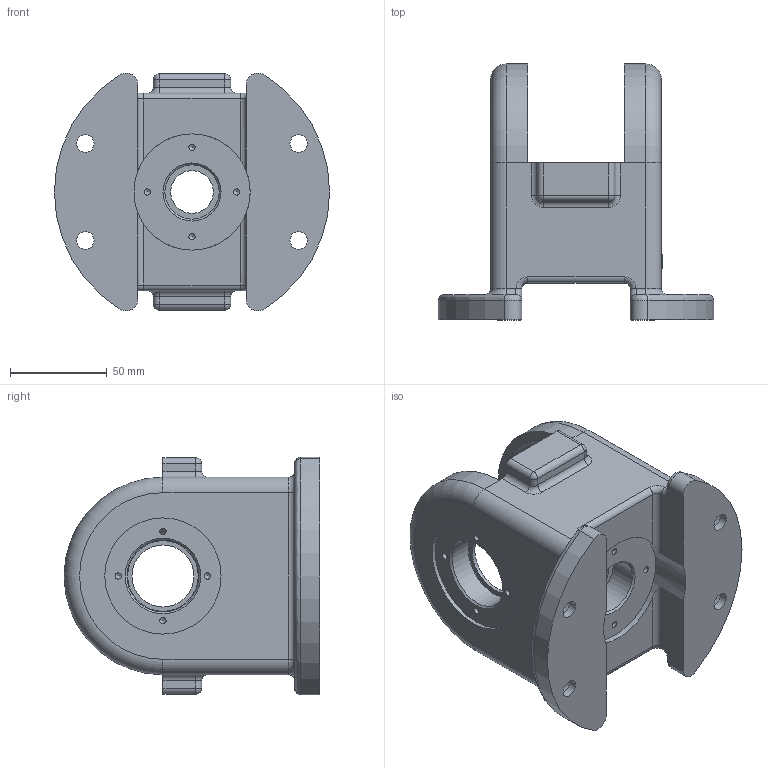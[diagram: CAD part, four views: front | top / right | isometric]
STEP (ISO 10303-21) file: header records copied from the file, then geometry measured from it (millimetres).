
FILE_DESCRIPTION(/* description */ (''),/* implementation_level */ '2;1');
FILE_NAME(/* name */ '',/* time_stamp */ '2025-02-24T13:55:24+09:00',/* author */ ('jhkim'),/* organization */ (''),/* preprocessor_version */ 'ST-DEVELOPER v20',/* originating_system */ 'Autodesk Inventor 2025',/* authorisation */ '');
FILE_SCHEMA (('AUTOMOTIVE_DESIGN { 1 0 10303 214 3 1 1 }'));
Length unit declared in the file: millimetre
Products named in the file (1): 본체
Bounding box: 142 x 132 x 122.77 mm (x, y, z)
Volume: 444159.3 mm3; surface area: 105182.2 mm2
Topology: 1 solids, 1 shells, 384 faces, 963 edges, 609 vertices
Faces by surface type: plane 160, cylinder 87, bspline 80, torus 28, cone 21, sphere 8
Full cylindrical faces by diameter (mm): 3.242 x16, 9 x4, 15 x4, 22 x1, 28 x1, 32 x2, 37 x2, 60 x3
Entity records: 11649 total; most frequent: CARTESIAN_POINT 2827, ORIENTED_EDGE 1894, DIRECTION 1634, EDGE_CURVE 947, VERTEX_POINT 609, LINE 558, VECTOR 558, AXIS2_PLACEMENT_3D 538
